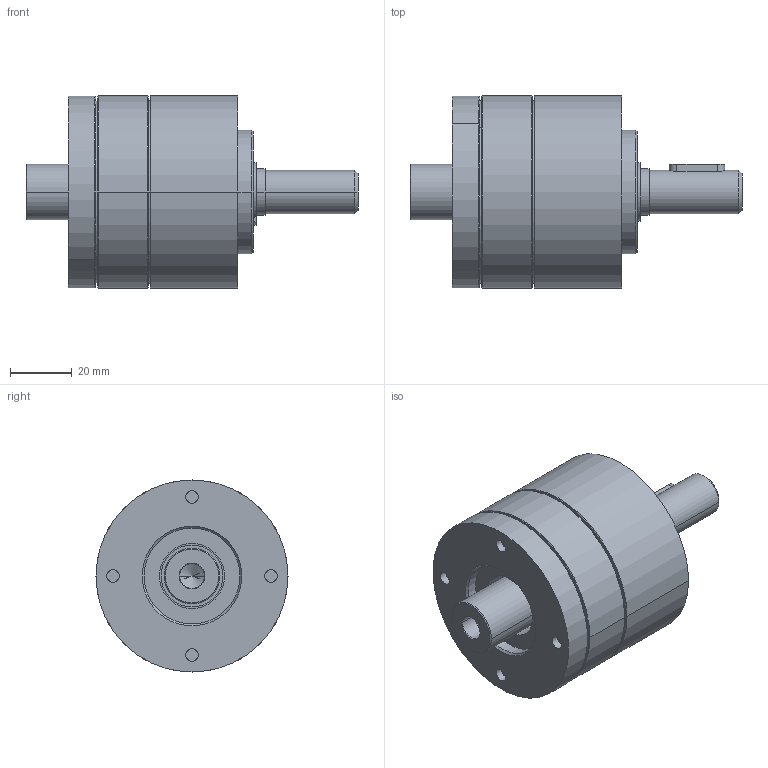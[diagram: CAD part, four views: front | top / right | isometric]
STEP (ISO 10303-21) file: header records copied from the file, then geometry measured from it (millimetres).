
FILE_DESCRIPTION((''),'2;1');
FILE_NAME('IMS62_PRO_1_STAGE_ASM','2024-09-02T13:12:36',('mhummel'),(''),'CREO PARAMETRIC BY PTC INC, 2020184','CREO PARAMETRIC BY PTC INC, 2020184','');
FILE_SCHEMA(('AUTOMOTIVE_DESIGN { 1 0 10303 214 1 1 1 1 }'));
Length unit declared in the file: millimetre
Products named in the file (14): IMS62_PRO_BEARING_FLANGE; IMS62_PRO_BALL_BEARING; IMS62_PRO_RING_GEAR_1_STAGE; IMS62_PRO_MOTOR_FLANGE; IMS62_PRO_SHIM_RING; IMS62_PRO_SHAFT_RAW_AF0; IMS62_PRO_SHAFT_ASM; IMS62_PRO_RETAINING_RING_A; IMS62_PRO_FEATHER_KEY; IMS62_PRO_THRUST_WASHER_1_STAGE; IMS62_PRO_SCREW_1_STAGE; IMS62_PRO_PINION_LONG; IMS62_PRO_PINION_SHORT; IMS62_PRO_1_STAGE_ASM
Assembly tree (17 placements, depth 3):
  IMS62_PRO_1_STAGE_ASM
    IMS62_PRO_BEARING_FLANGE
    IMS62_PRO_BALL_BEARING  x2
    IMS62_PRO_RING_GEAR_1_STAGE
    IMS62_PRO_MOTOR_FLANGE
    IMS62_PRO_SHIM_RING
    IMS62_PRO_SHAFT_ASM
      IMS62_PRO_SHAFT_RAW_AF0
    IMS62_PRO_RETAINING_RING_A
    IMS62_PRO_FEATHER_KEY
    IMS62_PRO_THRUST_WASHER_1_STAGE
    IMS62_PRO_SCREW_1_STAGE  x4
    IMS62_PRO_PINION_LONG
    IMS62_PRO_PINION_SHORT
Bounding box: 107.15 x 62 x 62 mm (x, y, z)
Volume: 139905.8 mm3; surface area: 66562.3 mm2
Topology: 20 solids, 22 shells, 401 faces, 855 edges, 512 vertices
Faces by surface type: cylinder 158, plane 97, cone 90, torus 56
Entity records: 11001 total; most frequent: DIRECTION 1731, CARTESIAN_POINT 1478, ORIENTED_EDGE 1314, AXIS2_PLACEMENT_3D 735, EDGE_CURVE 657, PRESENTATION_STYLE_ASSIGNMENT 496, STYLED_ITEM 486, CURVE_STYLE 473
